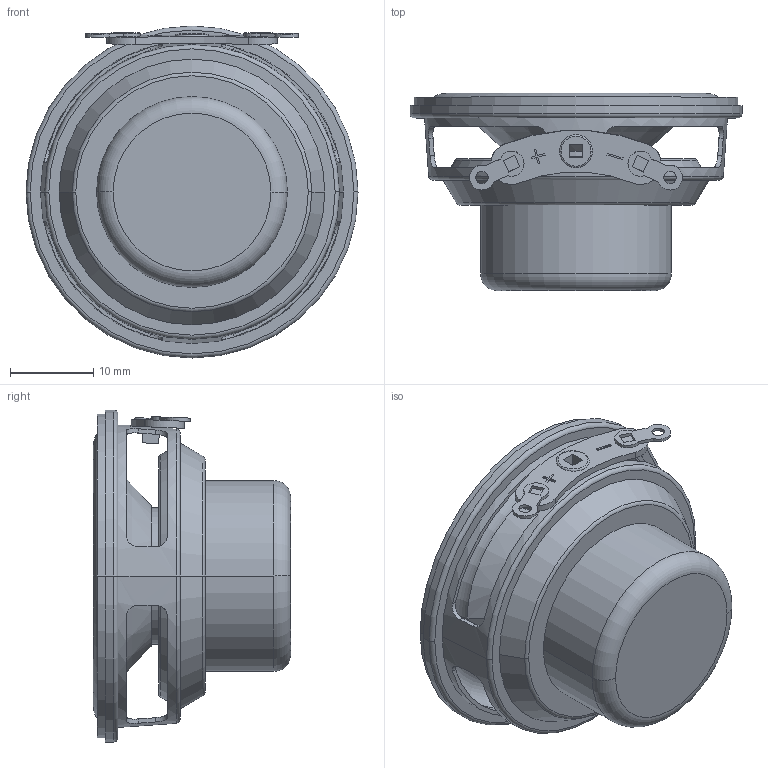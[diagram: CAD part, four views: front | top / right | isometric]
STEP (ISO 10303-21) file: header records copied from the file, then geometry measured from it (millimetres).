
FILE_DESCRIPTION((''),'2;1');
FILE_NAME('ST-9A04-40MM-10W_ASM','2023-09-23T09:32:38',('54257'),(''),'CREO PARAMETRIC BY PTC INC, 2020053','CREO PARAMETRIC BY PTC INC, 2020053','');
FILE_SCHEMA(('CONFIG_CONTROL_DESIGN','SHAPE_APPEARANCE_LAYERS_GROUPS'));
Length unit declared in the file: millimetre
Products named in the file (11): HF-4001_01_10W; HC-40_01_10W; HD-00_01_10W; HT-00_01_10W; HG-000_01_10W; U-YOK-10W; HM-_1085-10W; HP-1085-10W; HV_1085-10W; HA-10W; ST-9A04-40MM-10W_ASM
Assembly tree (10 placements, depth 2):
  ST-9A04-40MM-10W_ASM
    HF-4001_01_10W
    HC-40_01_10W
    HD-00_01_10W
    HT-00_01_10W
    HG-000_01_10W
    U-YOK-10W
    HM-_1085-10W
    HP-1085-10W
    HV_1085-10W
    HA-10W
Bounding box: 40 x 23.75 x 40 mm (x, y, z)
Volume: 5892.7 mm3; surface area: 14251.9 mm2
Topology: 10 solids, 10 shells, 245 faces, 556 edges, 342 vertices
Faces by surface type: plane 93, cylinder 62, cone 44, torus 42, sphere 4
Entity records: 10892 total; most frequent: CARTESIAN_POINT 1556, DIRECTION 1286, ORIENTED_EDGE 1104, PRESENTATION_STYLE_ASSIGNMENT 807, STYLED_ITEM 807, CURVE_STYLE 552, EDGE_CURVE 552, AXIS2_PLACEMENT_3D 524
